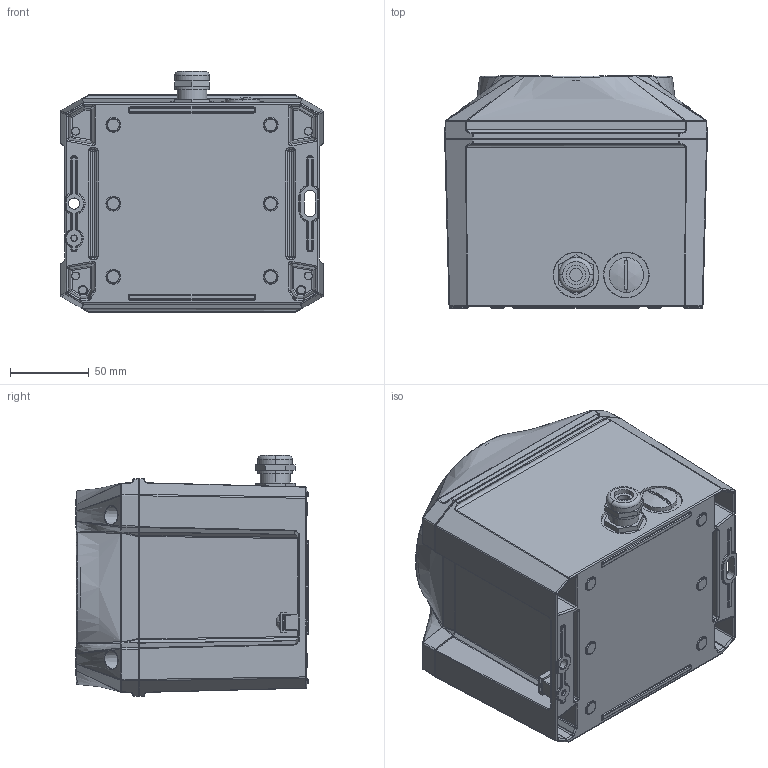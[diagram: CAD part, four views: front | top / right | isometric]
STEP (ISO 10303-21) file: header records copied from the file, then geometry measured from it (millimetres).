
FILE_DESCRIPTION (( 'STEP AP214' ), '1' );
FILE_NAME ('30454-100-Ex.STEP', '2023-02-17T14:48:12', ( '' ), ( '' ), 'SwSTEP 2.0', 'SolidWorks 2021', '' );
FILE_SCHEMA (( 'AUTOMOTIVE_DESIGN' ));
Length unit declared in the file: millimetre
Products named in the file (1): 30454-100-Ex
Bounding box: 167 x 147.81 x 153.25 mm (x, y, z)
Volume: 643311.2 mm3; surface area: 353550.4 mm2
Topology: 29 solids, 30 shells, 4372 faces, 10330 edges, 5918 vertices
Faces by surface type: bspline 1618, plane 816, cylinder 791, torus 438, cone 434, sphere 275
Entity records: 228208 total; most frequent: CARTESIAN_POINT 92722, ORIENTED_EDGE 20190, DIRECTION 15827, EDGE_CURVE 10095, AXIS2_PLACEMENT_3D 6578, VERTEX_POINT 5888, EDGE_LOOP 4523, UNCERTAINTY_MEASURE_WITH_UNIT 4399
